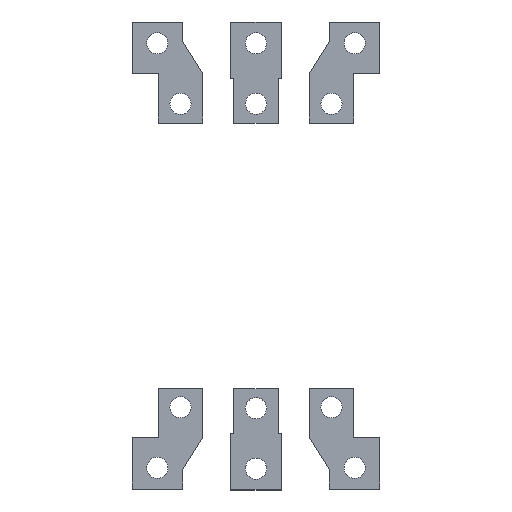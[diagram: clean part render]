
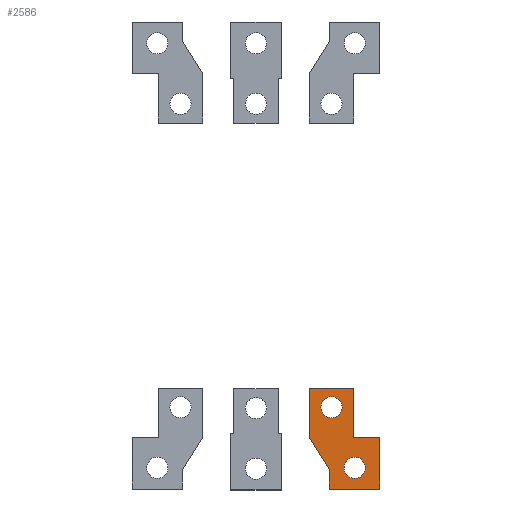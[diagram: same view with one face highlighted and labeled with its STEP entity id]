
A CAD part, top view. The second image highlights one B-rep face of the part: STEP entity #2586.
In plain terms, the highlighted planar face has unit normal (0, 0, 1).
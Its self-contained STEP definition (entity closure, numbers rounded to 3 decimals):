
#6 = VECTOR ( 'NONE', #3935, 1000. ) ;
#23 = EDGE_CURVE ( 'NONE', #2951, #253, #194, .T. ) ;
#152 = EDGE_CURVE ( 'NONE', #2329, #2372, #3287, .T. ) ;
#194 = LINE ( 'NONE', #1951, #2332 ) ;
#242 = CIRCLE ( 'NONE', #660, 5.25 ) ;
#253 = VERTEX_POINT ( 'NONE', #3334 ) ;
#297 = EDGE_CURVE ( 'NONE', #3379, #444, #2903, .T. ) ;
#334 = VERTEX_POINT ( 'NONE', #3700 ) ;
#335 = CARTESIAN_POINT ( 'NONE',  ( 43.59, -105.05, 27.44 ) ) ;
#357 = EDGE_CURVE ( 'NONE', #2372, #1096, #1095, .T. ) ;
#422 = ORIENTED_EDGE ( 'NONE', *, *, #2325, .F. ) ;
#444 = VERTEX_POINT ( 'NONE', #709 ) ;
#445 = CARTESIAN_POINT ( 'NONE',  ( 32.09, -75.05, 27.44 ) ) ;
#455 = VECTOR ( 'NONE', #2633, 1000. ) ;
#567 = DIRECTION ( 'NONE',  ( 0., 0., -1. ) ) ;
#658 = CIRCLE ( 'NONE', #1031, 5.25 ) ;
#660 = AXIS2_PLACEMENT_3D ( 'NONE', #2176, #1602, #3737 ) ;
#665 = CARTESIAN_POINT ( 'NONE',  ( 48.34, -90.05, 27.44 ) ) ;
#709 = CARTESIAN_POINT ( 'NONE',  ( 48.34, -90.05, 27.44 ) ) ;
#712 = LINE ( 'NONE', #1091, #2548 ) ;
#737 = CARTESIAN_POINT ( 'NONE',  ( 48.84, -105.05, 27.44 ) ) ;
#778 = CARTESIAN_POINT ( 'NONE',  ( 36.34, -106.05, 27.44 ) ) ;
#846 = DIRECTION ( 'NONE',  ( -1., 0., 0. ) ) ;
#883 = ORIENTED_EDGE ( 'NONE', *, *, #1034, .F. ) ;
#968 = CARTESIAN_POINT ( 'NONE',  ( 36.34, -115.55, 27.44 ) ) ;
#1031 = AXIS2_PLACEMENT_3D ( 'NONE', #1121, #567, #846 ) ;
#1034 = EDGE_CURVE ( 'NONE', #253, #3379, #712, .T. ) ;
#1091 = CARTESIAN_POINT ( 'NONE',  ( 26.34, -65.55, 27.44 ) ) ;
#1095 = LINE ( 'NONE', #2679, #6 ) ;
#1096 = VERTEX_POINT ( 'NONE', #778 ) ;
#1121 = CARTESIAN_POINT ( 'NONE',  ( 37.34, -75.05, 27.44 ) ) ;
#1147 = VERTEX_POINT ( 'NONE', #3553 ) ;
#1195 = EDGE_LOOP ( 'NONE', ( #2414, #883, #3062, #2066, #1295, #3057, #3756, #422 ) ) ;
#1291 = ORIENTED_EDGE ( 'NONE', *, *, #3639, .T. ) ;
#1294 = DIRECTION ( 'NONE',  ( 0., 0., -1. ) ) ;
#1295 = ORIENTED_EDGE ( 'NONE', *, *, #357, .F. ) ;
#1316 = CARTESIAN_POINT ( 'NONE',  ( 48.84, -105.05, 27.44 ) ) ;
#1371 = LINE ( 'NONE', #1478, #1663 ) ;
#1415 = AXIS2_PLACEMENT_3D ( 'NONE', #2306, #1294, #1979 ) ;
#1430 = VECTOR ( 'NONE', #2254, 1000. ) ;
#1478 = CARTESIAN_POINT ( 'NONE',  ( 26.34, -90.05, 27.44 ) ) ;
#1499 = FACE_BOUND ( 'NONE', #2613, .T. ) ;
#1594 = FACE_BOUND ( 'NONE', #2573, .T. ) ;
#1597 = EDGE_CURVE ( 'NONE', #2519, #334, #3813, .T. ) ;
#1602 = DIRECTION ( 'NONE',  ( 0., 0., -1. ) ) ;
#1663 = VECTOR ( 'NONE', #1788, 1000. ) ;
#1788 = DIRECTION ( 'NONE',  ( -0.53, 0.848, 0. ) ) ;
#1832 = CARTESIAN_POINT ( 'NONE',  ( 48.34, -65.55, 27.44 ) ) ;
#1951 = CARTESIAN_POINT ( 'NONE',  ( 26.34, -65.55, 27.44 ) ) ;
#1979 = DIRECTION ( 'NONE',  ( -1., 0., 0. ) ) ;
#1982 = LINE ( 'NONE', #2047, #455 ) ;
#1989 = EDGE_CURVE ( 'NONE', #334, #2519, #2906, .T. ) ;
#2047 = CARTESIAN_POINT ( 'NONE',  ( 61.34, -90.05, 27.44 ) ) ;
#2066 = ORIENTED_EDGE ( 'NONE', *, *, #3678, .F. ) ;
#2143 = DIRECTION ( 'NONE',  ( 1., 0., 0. ) ) ;
#2163 = VERTEX_POINT ( 'NONE', #445 ) ;
#2176 = CARTESIAN_POINT ( 'NONE',  ( 37.34, -75.05, 27.44 ) ) ;
#2198 = CARTESIAN_POINT ( 'NONE',  ( 42.59, -75.05, 27.44 ) ) ;
#2254 = DIRECTION ( 'NONE',  ( -1., 0., 0. ) ) ;
#2293 = DIRECTION ( 'NONE',  ( 1., 0., 0. ) ) ;
#2306 = CARTESIAN_POINT ( 'NONE',  ( 48.34, -115.55, 27.44 ) ) ;
#2318 = EDGE_CURVE ( 'NONE', #2163, #3889, #242, .T. ) ;
#2325 = EDGE_CURVE ( 'NONE', #444, #1147, #3192, .T. ) ;
#2329 = VERTEX_POINT ( 'NONE', #3655 ) ;
#2332 = VECTOR ( 'NONE', #3788, 1000. ) ;
#2349 = ORIENTED_EDGE ( 'NONE', *, *, #2318, .T. ) ;
#2372 = VERTEX_POINT ( 'NONE', #968 ) ;
#2414 = ORIENTED_EDGE ( 'NONE', *, *, #297, .F. ) ;
#2416 = CARTESIAN_POINT ( 'NONE',  ( 26.34, -90.05, 27.44 ) ) ;
#2504 = DIRECTION ( 'NONE',  ( 0., 0., -1. ) ) ;
#2519 = VERTEX_POINT ( 'NONE', #335 ) ;
#2548 = VECTOR ( 'NONE', #2293, 1000. ) ;
#2573 = EDGE_LOOP ( 'NONE', ( #3475, #3049 ) ) ;
#2586 = ADVANCED_FACE ( 'NONE', ( #1594, #1499, #2909 ), #2890, .F. ) ;
#2613 = EDGE_LOOP ( 'NONE', ( #2349, #1291 ) ) ;
#2633 = DIRECTION ( 'NONE',  ( 0., -1., 0. ) ) ;
#2679 = CARTESIAN_POINT ( 'NONE',  ( 36.34, -115.55, 27.44 ) ) ;
#2830 = DIRECTION ( 'NONE',  ( -1., 0., 0. ) ) ;
#2858 = DIRECTION ( 'NONE',  ( 0., 0., -1. ) ) ;
#2890 = PLANE ( 'NONE',  #1415 ) ;
#2903 = LINE ( 'NONE', #1832, #2994 ) ;
#2906 = CIRCLE ( 'NONE', #3702, 5.25 ) ;
#2909 = FACE_OUTER_BOUND ( 'NONE', #1195, .T. ) ;
#2951 = VERTEX_POINT ( 'NONE', #2416 ) ;
#2961 = AXIS2_PLACEMENT_3D ( 'NONE', #737, #2858, #2830 ) ;
#2994 = VECTOR ( 'NONE', #3068, 1000. ) ;
#3049 = ORIENTED_EDGE ( 'NONE', *, *, #1989, .T. ) ;
#3057 = ORIENTED_EDGE ( 'NONE', *, *, #152, .F. ) ;
#3062 = ORIENTED_EDGE ( 'NONE', *, *, #23, .F. ) ;
#3068 = DIRECTION ( 'NONE',  ( 0., -1., 0. ) ) ;
#3088 = VECTOR ( 'NONE', #2143, 1000. ) ;
#3161 = CARTESIAN_POINT ( 'NONE',  ( 61.34, -115.55, 27.44 ) ) ;
#3192 = LINE ( 'NONE', #665, #3088 ) ;
#3287 = LINE ( 'NONE', #3161, #1430 ) ;
#3334 = CARTESIAN_POINT ( 'NONE',  ( 26.34, -65.55, 27.44 ) ) ;
#3379 = VERTEX_POINT ( 'NONE', #3440 ) ;
#3440 = CARTESIAN_POINT ( 'NONE',  ( 48.34, -65.55, 27.44 ) ) ;
#3475 = ORIENTED_EDGE ( 'NONE', *, *, #1597, .T. ) ;
#3553 = CARTESIAN_POINT ( 'NONE',  ( 61.34, -90.05, 27.44 ) ) ;
#3639 = EDGE_CURVE ( 'NONE', #3889, #2163, #658, .T. ) ;
#3655 = CARTESIAN_POINT ( 'NONE',  ( 61.34, -115.55, 27.44 ) ) ;
#3678 = EDGE_CURVE ( 'NONE', #1096, #2951, #1371, .T. ) ;
#3700 = CARTESIAN_POINT ( 'NONE',  ( 54.09, -105.05, 27.44 ) ) ;
#3702 = AXIS2_PLACEMENT_3D ( 'NONE', #1316, #2504, #3708 ) ;
#3708 = DIRECTION ( 'NONE',  ( -1., 0., 0. ) ) ;
#3737 = DIRECTION ( 'NONE',  ( -1., 0., 0. ) ) ;
#3756 = ORIENTED_EDGE ( 'NONE', *, *, #3758, .F. ) ;
#3758 = EDGE_CURVE ( 'NONE', #1147, #2329, #1982, .T. ) ;
#3788 = DIRECTION ( 'NONE',  ( 0., 1., 0. ) ) ;
#3813 = CIRCLE ( 'NONE', #2961, 5.25 ) ;
#3889 = VERTEX_POINT ( 'NONE', #2198 ) ;
#3935 = DIRECTION ( 'NONE',  ( 0., 1., 0. ) ) ;
